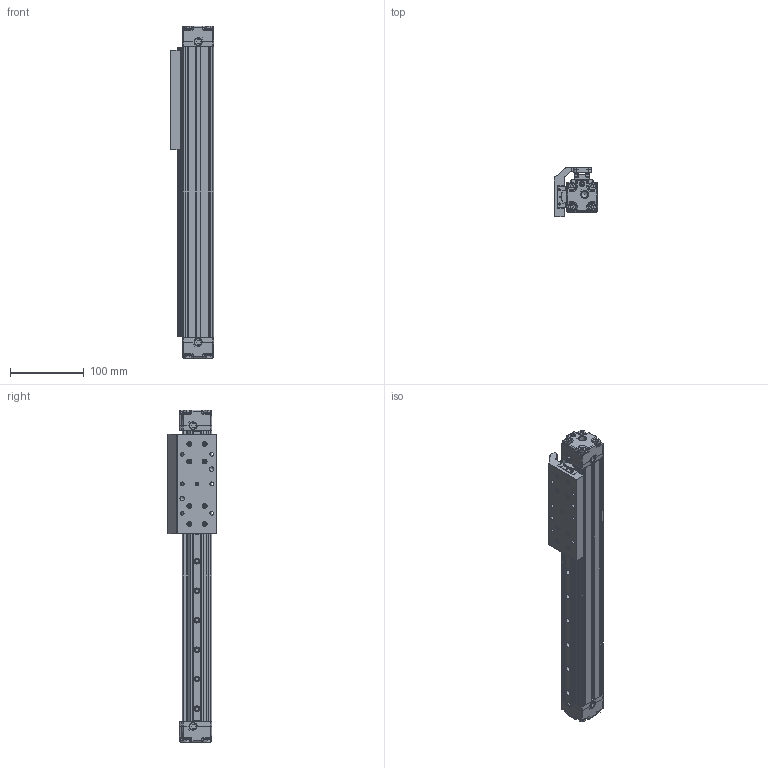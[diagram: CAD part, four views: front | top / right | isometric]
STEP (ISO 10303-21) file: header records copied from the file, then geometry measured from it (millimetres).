
FILE_DESCRIPTION (( 'STEP AP203' ), '1' );
FILE_NAME ('MXP25P_NP_SM250.000_MXP-493087-1.step', '2025-07-18T14:24:09', ( '' ), ( '' ), 'SwSTEP 2.0', 'SolidWorks 2024', '' );
FILE_SCHEMA (( 'CONFIG_CONTROL_DESIGN' ));
Length unit declared in the file: inch
Products named in the file (4): 81259000_MXP25P_NP_SM250.000_MXP-493087-1; Base_MXP25P_NP_SM250.000_MXP-493087-1; MXP25P_NP_SM250.000_MXP-493087-1; 81259004_MXP25P_NP_SM250.000_MXP-493087-1
Assembly tree (3 placements, depth 2):
  MXP25P_NP_SM250.000_MXP-493087-1
    81259000_MXP25P_NP_SM250.000_MXP-493087-1
    81259004_MXP25P_NP_SM250.000_MXP-493087-1
    Base_MXP25P_NP_SM250.000_MXP-493087-1
Bounding box: 58.5 x 67.42 x 450.3 mm (x, y, z)
Volume: 749596.2 mm3; surface area: 224746.7 mm2
Topology: 4 solids, 31 shells, 1703 faces, 4055 edges, 2542 vertices
Faces by surface type: plane 1019, cylinder 446, cone 100, torus 88, bspline 34, sphere 16
Full cylindrical faces by diameter (mm): 2.2 x4, 2.5 x8, 3 x12, 3.3 x8, 3.5 x4, 3.58 x8, 4 x8, 4.064 x2, 4.2 x8, 4.318 x8, 4.5 x10, 4.57 x8, 4.699 x2, 5 x6, 5.5 x14, 6 x4, 6.033 x2, 6.4 x10, 7 x8, 7.036 x8, 7.5 x10, 7.544 x2, 7.9 x8, 8.433 x6, 10.16 x8, 24.5 x1
Entity records: 47778 total; most frequent: CARTESIAN_POINT 9279, DIRECTION 8076, ORIENTED_EDGE 7288, EDGE_CURVE 3644, AXIS2_PLACEMENT_3D 2859, VERTEX_POINT 2440, LINE 2358, VECTOR 2358
